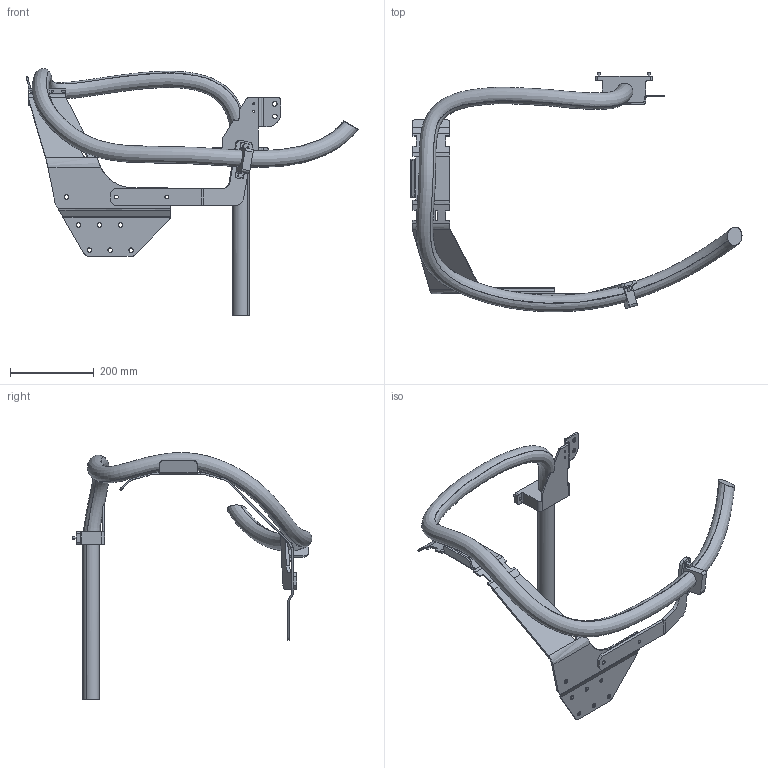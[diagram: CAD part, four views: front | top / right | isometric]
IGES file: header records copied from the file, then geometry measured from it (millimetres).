
Start section: SolidWorks IGES file using analytic representation for surfaces
Global section: file name: C:\DATA\SAP_DOC\LW\IRB 6720\IRB6720-LID-MH_215kg-265_OC_01_SW_J\export\IRB6720-LID-MH_215kg-265_OC_01_IGES_J\IRB6720-LID-MH_215kg-265_OC_00_LINK01_CABLE.igs; native system: SolidWorks 2024; preprocessor: SolidWorks 2024; author: SEJOVAS3; date: 260526.094021; units: millimetre
Bounding box: 793.58 x 573.25 x 590.05 mm (x, y, z)
Surface area: 547034.2 mm2 (no closed solid volume)
Topology: 0 solids, 0 shells, 301 faces, 4434 edges, 4434 vertices
Faces by surface type: bspline 171, revolution 130
